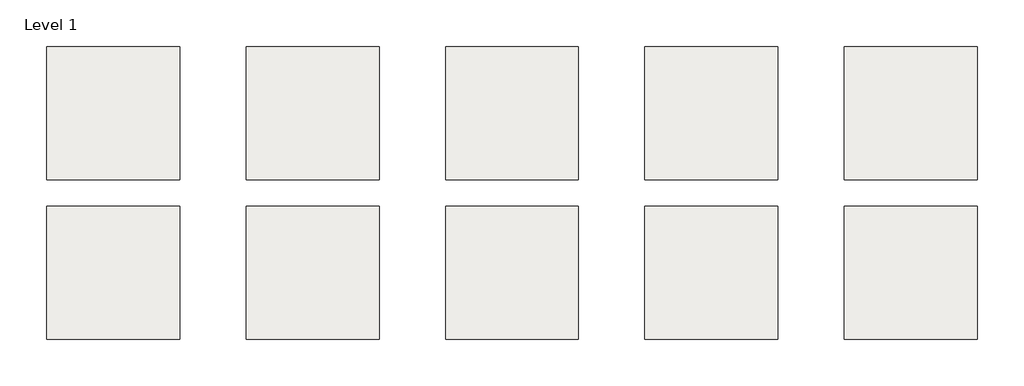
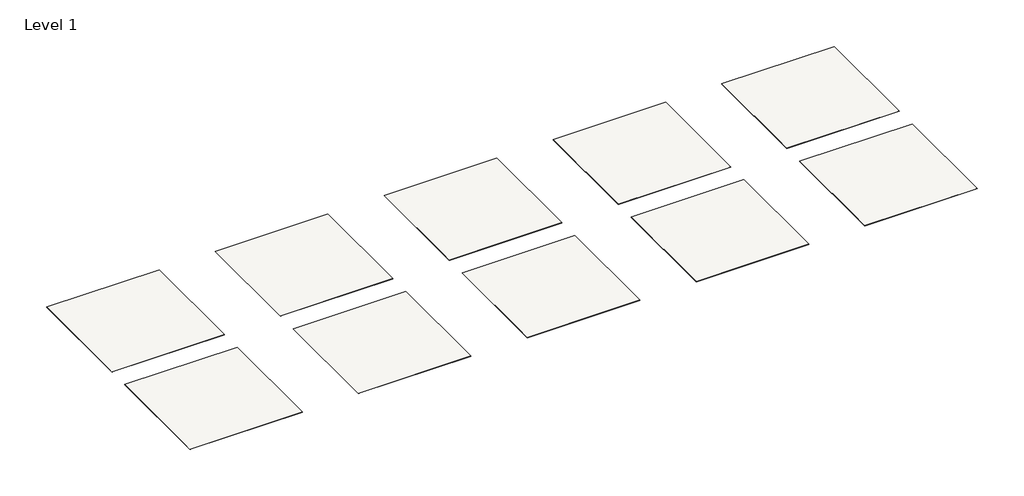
# One storey: 10 slabs.
"""IFC4 building model written with IfcOpenShell, lengths in millimetres."""

from ifc_helpers import new_model, si_unit, frame, origin, place, context, project, spatial, polyline, outline, extrude, element, save

model = new_model("IFC4")

# Units and contexts
model_context = context("Model", 3, world=origin())
ifc_project = project(units=[si_unit("LENGTHUNIT", "METRE", prefix="MILLI")], contexts=[model_context])

# Site, building, storey
site = spatial("IfcSite", under=ifc_project)
building = spatial("IfcBuilding", under=site)
storey = spatial("IfcBuildingStorey", under=building, Name="Level 1", Elevation=0.0)

# Slabs
placement = place(None, origin())
element("IfcSlab", 1, ObjectType="Porcelain Tile - Crossville - Basalt - AV293 Bedrock 12x12", at=placement, inside=storey, context=model_context, shape_type="SweptSolid", body=[
    extrude(outline(polyline([(-8818.3073424, 5665.5781438), (-8818.3073424, 2617.5781438), (-11866.3073424, 2617.5781438), (-11866.3073424, 5665.5781438), (-8818.3073424, 5665.5781438)])), frame((0.0, 0.0, -9.525), z_axis=(0.0, 0.0, 1.0), x_axis=(1.0, 0.0, 0.0)), (0.0, 0.0, 1.0), 9.525),
])
element("IfcSlab", 2, ObjectType="Porcelain Tile - Crossville - Basalt - AV293 Bedrock 12x24", at=placement, inside=storey, context=model_context, shape_type="SweptSolid", body=[
    extrude(outline(polyline([(-8818.3073424, 2007.9781438), (-8818.3073424, -1040.0218562), (-11866.3073424, -1040.0218562), (-11866.3073424, 2007.9781438), (-8818.3073424, 2007.9781438)])), frame((0.0, 0.0, -9.525), z_axis=(0.0, 0.0, 1.0), x_axis=(1.0, 0.0, 0.0)), (0.0, 0.0, 1.0), 9.525),
])
element("IfcSlab", 3, ObjectType="Porcelain Tile - Crossville - Basalt - AV292 Caldera 12x12", at=placement, inside=storey, context=model_context, shape_type="SweptSolid", body=[
    extrude(outline(polyline([(-4246.3073424, 5665.5781438), (-4246.3073424, 2617.5781438), (-7294.3073424, 2617.5781438), (-7294.3073424, 5665.5781438), (-4246.3073424, 5665.5781438)])), frame((0.0, 0.0, -9.525), z_axis=(0.0, 0.0, 1.0), x_axis=(1.0, 0.0, 0.0)), (0.0, 0.0, 1.0), 9.525),
])
element("IfcSlab", 4, ObjectType="Porcelain Tile - Crossville - Basalt - AV292 Caldera 12x24", at=placement, inside=storey, context=model_context, shape_type="SweptSolid", body=[
    extrude(outline(polyline([(-4246.3073424, 2007.9781438), (-4246.3073424, -1040.0218562), (-7294.3073424, -1040.0218562), (-7294.3073424, 2007.9781438), (-4246.3073424, 2007.9781438)])), frame((0.0, 0.0, -9.525), z_axis=(0.0, 0.0, 1.0), x_axis=(1.0, 0.0, 0.0)), (0.0, 0.0, 1.0), 9.525),
])
element("IfcSlab", 5, ObjectType="Porcelain Tile - Crossville - Basalt - AV294 Mafic 12x12", at=placement, inside=storey, context=model_context, shape_type="SweptSolid", body=[
    extrude(outline(polyline([(325.6926576, 5665.5781438), (325.6926576, 2617.5781438), (-2722.3073424, 2617.5781438), (-2722.3073424, 5665.5781438), (325.6926576, 5665.5781438)])), frame((0.0, 0.0, -9.525), z_axis=(0.0, 0.0, 1.0), x_axis=(1.0, 0.0, 0.0)), (0.0, 0.0, 1.0), 9.525),
])
element("IfcSlab", 6, ObjectType="Porcelain Tile - Crossville - Basalt - AV294 Mafic 12x24", at=placement, inside=storey, context=model_context, shape_type="SweptSolid", body=[
    extrude(outline(polyline([(325.6926576, 2007.9781438), (325.6926576, -1040.0218562), (-2722.3073424, -1040.0218562), (-2722.3073424, 2007.9781438), (325.6926576, 2007.9781438)])), frame((0.0, 0.0, -9.525), z_axis=(0.0, 0.0, 1.0), x_axis=(1.0, 0.0, 0.0)), (0.0, 0.0, 1.0), 9.525),
])
element("IfcSlab", 7, ObjectType="Porcelain Tile - Crossville - Basalt - AV295 Magma 12x12", at=placement, inside=storey, context=model_context, shape_type="SweptSolid", body=[
    extrude(outline(polyline([(4897.6926576, 5665.5781438), (4897.6926576, 2617.5781438), (1849.6926576, 2617.5781438), (1849.6926576, 5665.5781438), (4897.6926576, 5665.5781438)])), frame((0.0, 0.0, -9.525), z_axis=(0.0, 0.0, 1.0), x_axis=(1.0, 0.0, 0.0)), (0.0, 0.0, 1.0), 9.525),
])
element("IfcSlab", 8, ObjectType="Porcelain Tile - Crossville - Basalt - AV295 Magma 12x24", at=placement, inside=storey, context=model_context, shape_type="SweptSolid", body=[
    extrude(outline(polyline([(4897.6926576, 2007.9781438), (4897.6926576, -1040.0218562), (1849.6926576, -1040.0218562), (1849.6926576, 2007.9781438), (4897.6926576, 2007.9781438)])), frame((0.0, 0.0, -9.525), z_axis=(0.0, 0.0, 1.0), x_axis=(1.0, 0.0, 0.0)), (0.0, 0.0, 1.0), 9.525),
])
element("IfcSlab", 9, ObjectType="Porcelain Tile - Crossville - Basalt - AV291 Silica 12x12", at=placement, inside=storey, context=model_context, shape_type="SweptSolid", body=[
    extrude(outline(polyline([(9469.6926576, 5665.5781438), (9469.6926576, 2617.5781438), (6421.6926576, 2617.5781438), (6421.6926576, 5665.5781438), (9469.6926576, 5665.5781438)])), frame((0.0, 0.0, -9.525), z_axis=(0.0, 0.0, 1.0), x_axis=(1.0, 0.0, 0.0)), (0.0, 0.0, 1.0), 9.525),
])
element("IfcSlab", 10, ObjectType="Porcelain Tile - Crossville - Basalt - AV291 Silica 12x24", at=placement, inside=storey, context=model_context, shape_type="SweptSolid", body=[
    extrude(outline(polyline([(9469.6926576, 2007.9781438), (9469.6926576, -1040.0218562), (6421.6926576, -1040.0218562), (6421.6926576, 2007.9781438), (9469.6926576, 2007.9781438)])), frame((0.0, 0.0, -9.525), z_axis=(0.0, 0.0, 1.0), x_axis=(1.0, 0.0, 0.0)), (0.0, 0.0, 1.0), 9.525),
])

save(model, "model.ifc")
